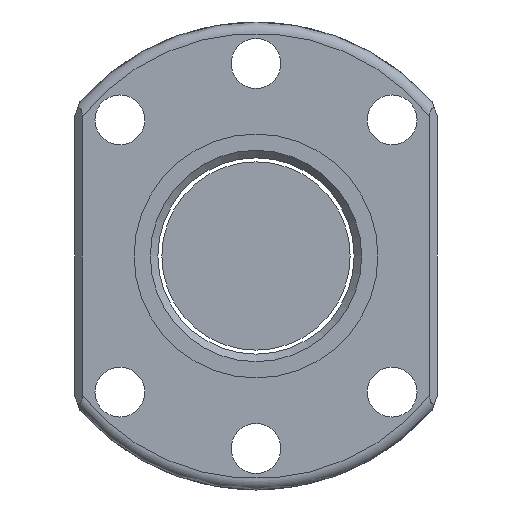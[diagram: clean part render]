
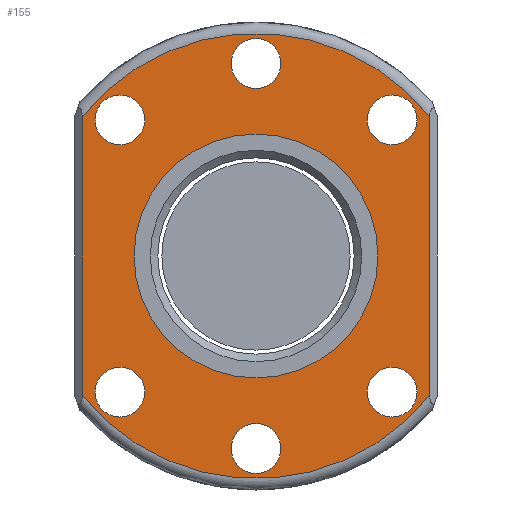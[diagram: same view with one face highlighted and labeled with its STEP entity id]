
A CAD part, front view. The second image highlights one B-rep face of the part: STEP entity #155.
In plain terms, the highlighted planar face has unit normal (0, -1, 0).
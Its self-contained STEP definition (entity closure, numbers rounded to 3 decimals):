
#49=LINE('',#929,#73);
#50=LINE('',#933,#74);
#73=VECTOR('',#761,1.);
#74=VECTOR('',#764,1.);
#119=PLANE('',#663);
#155=ADVANCED_FACE('',(#212,#213,#214,#215,#216,#217,#218,#219),#119,.T.);
#212=FACE_BOUND('',#266,.T.);
#213=FACE_BOUND('',#267,.T.);
#214=FACE_BOUND('',#268,.T.);
#215=FACE_BOUND('',#269,.T.);
#216=FACE_BOUND('',#270,.T.);
#217=FACE_BOUND('',#271,.T.);
#218=FACE_BOUND('',#272,.T.);
#219=FACE_BOUND('',#273,.T.);
#266=EDGE_LOOP('',(#339));
#267=EDGE_LOOP('',(#340));
#268=EDGE_LOOP('',(#341));
#269=EDGE_LOOP('',(#342));
#270=EDGE_LOOP('',(#343));
#271=EDGE_LOOP('',(#344));
#272=EDGE_LOOP('',(#345));
#273=EDGE_LOOP('',(#346,#347,#348,#349));
#339=ORIENTED_EDGE('',*,*,#543,.T.);
#340=ORIENTED_EDGE('',*,*,#544,.F.);
#341=ORIENTED_EDGE('',*,*,#545,.F.);
#342=ORIENTED_EDGE('',*,*,#546,.F.);
#343=ORIENTED_EDGE('',*,*,#547,.T.);
#344=ORIENTED_EDGE('',*,*,#548,.F.);
#345=ORIENTED_EDGE('',*,*,#549,.T.);
#346=ORIENTED_EDGE('',*,*,#550,.T.);
#347=ORIENTED_EDGE('',*,*,#551,.T.);
#348=ORIENTED_EDGE('',*,*,#552,.T.);
#349=ORIENTED_EDGE('',*,*,#553,.T.);
#485=VERTEX_POINT('',#913);
#486=VERTEX_POINT('',#915);
#487=VERTEX_POINT('',#917);
#488=VERTEX_POINT('',#919);
#489=VERTEX_POINT('',#921);
#490=VERTEX_POINT('',#923);
#491=VERTEX_POINT('',#925);
#492=VERTEX_POINT('',#927);
#493=VERTEX_POINT('',#928);
#494=VERTEX_POINT('',#930);
#495=VERTEX_POINT('',#932);
#543=EDGE_CURVE('',#485,#485,#615,.T.);
#544=EDGE_CURVE('',#486,#486,#616,.T.);
#545=EDGE_CURVE('',#487,#487,#617,.T.);
#546=EDGE_CURVE('',#488,#488,#618,.T.);
#547=EDGE_CURVE('',#489,#489,#619,.T.);
#548=EDGE_CURVE('',#490,#490,#620,.T.);
#549=EDGE_CURVE('',#491,#491,#621,.T.);
#550=EDGE_CURVE('',#492,#493,#622,.T.);
#551=EDGE_CURVE('',#493,#494,#49,.T.);
#552=EDGE_CURVE('',#494,#495,#623,.T.);
#553=EDGE_CURVE('',#495,#492,#50,.T.);
#615=CIRCLE('',#654,3.3);
#616=CIRCLE('',#655,3.3);
#617=CIRCLE('',#656,3.3);
#618=CIRCLE('',#657,3.3);
#619=CIRCLE('',#658,3.3);
#620=CIRCLE('',#659,16.15);
#621=CIRCLE('',#660,3.3);
#622=CIRCLE('',#661,29.5);
#623=CIRCLE('',#662,29.5);
#654=AXIS2_PLACEMENT_3D('',#912,#745,#746);
#655=AXIS2_PLACEMENT_3D('',#914,#747,#748);
#656=AXIS2_PLACEMENT_3D('',#916,#749,#750);
#657=AXIS2_PLACEMENT_3D('',#918,#751,#752);
#658=AXIS2_PLACEMENT_3D('',#920,#753,#754);
#659=AXIS2_PLACEMENT_3D('',#922,#755,#756);
#660=AXIS2_PLACEMENT_3D('',#924,#757,#758);
#661=AXIS2_PLACEMENT_3D('',#926,#759,#760);
#662=AXIS2_PLACEMENT_3D('',#931,#762,#763);
#663=AXIS2_PLACEMENT_3D('',#934,#765,#766);
#745=DIRECTION('',(0.,1.,0.));
#746=DIRECTION('',(1.,0.,0.));
#747=DIRECTION('',(0.,-1.,0.));
#748=DIRECTION('',(1.,0.,0.));
#749=DIRECTION('',(0.,-1.,0.));
#750=DIRECTION('',(1.,0.,0.));
#751=DIRECTION('',(0.,-1.,0.));
#752=DIRECTION('',(1.,0.,0.));
#753=DIRECTION('',(0.,1.,0.));
#754=DIRECTION('',(1.,0.,0.));
#755=DIRECTION('',(0.,-1.,0.));
#756=DIRECTION('',(1.,0.,0.));
#757=DIRECTION('',(0.,1.,0.));
#758=DIRECTION('',(1.,0.,0.));
#759=DIRECTION('',(0.,-1.,0.));
#760=DIRECTION('',(0.,0.,-1.));
#761=DIRECTION('',(0.,0.,1.));
#762=DIRECTION('',(0.,-1.,0.));
#763=DIRECTION('',(0.,0.,-1.));
#764=DIRECTION('',(0.,0.,-1.));
#765=DIRECTION('',(0.,-1.,0.));
#766=DIRECTION('',(0.,0.,-1.));
#912=CARTESIAN_POINT('',(0.,0.,-25.5));
#913=CARTESIAN_POINT('',(3.3,0.,-25.5));
#914=CARTESIAN_POINT('',(18.031,0.,18.031));
#915=CARTESIAN_POINT('',(21.331,0.,18.031));
#916=CARTESIAN_POINT('',(0.,0.,25.5));
#917=CARTESIAN_POINT('',(3.3,0.,25.5));
#918=CARTESIAN_POINT('',(-18.031,0.,18.031));
#919=CARTESIAN_POINT('',(-14.731,0.,18.031));
#920=CARTESIAN_POINT('',(18.031,0.,-18.031));
#921=CARTESIAN_POINT('',(21.331,0.,-18.031));
#922=CARTESIAN_POINT('',(0.,0.,0.));
#923=CARTESIAN_POINT('',(16.15,0.,0.));
#924=CARTESIAN_POINT('',(-18.031,0.,-18.031));
#925=CARTESIAN_POINT('',(-14.731,0.,-18.031));
#926=CARTESIAN_POINT('',(0.,0.,0.));
#927=CARTESIAN_POINT('',(-23.,0.,-18.473));
#928=CARTESIAN_POINT('',(23.,0.,-18.473));
#929=CARTESIAN_POINT('',(23.,0.,17.154));
#930=CARTESIAN_POINT('',(23.,0.,18.473));
#931=CARTESIAN_POINT('',(0.,0.,0.));
#932=CARTESIAN_POINT('',(-23.,0.,18.473));
#933=CARTESIAN_POINT('',(-23.,0.,0.));
#934=CARTESIAN_POINT('',(0.,0.,0.));
